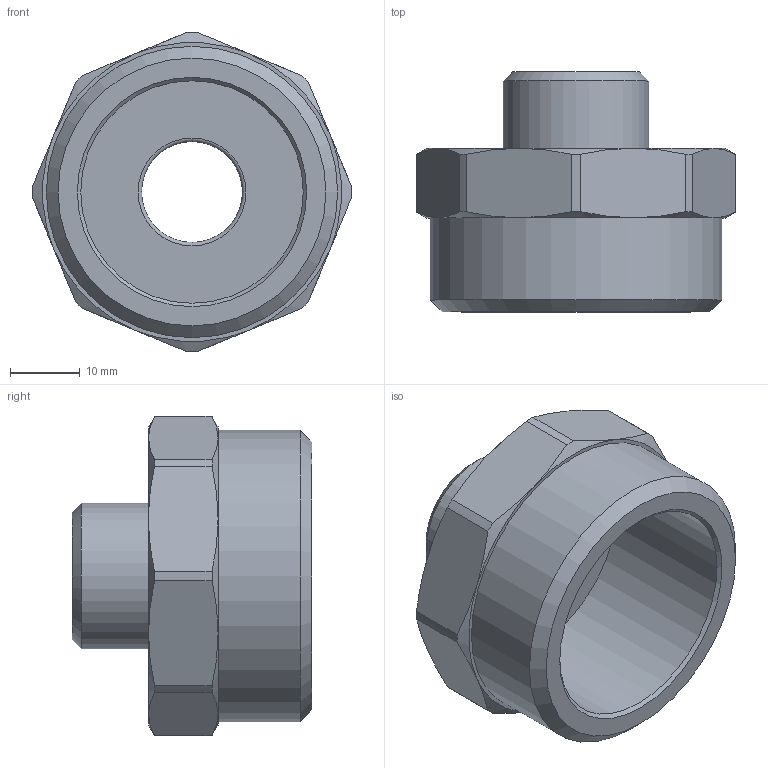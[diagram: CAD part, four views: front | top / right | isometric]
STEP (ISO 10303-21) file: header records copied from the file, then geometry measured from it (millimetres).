
FILE_DESCRIPTION(('STEP AP203'), '1');
FILE_NAME('ÂÐ.753157.004 - VTr.580.N.0704 Íèïïåëü G1 1-4xG1-2', '2024-07-03T10:16:09', ('Boss'), (''), 'C3D Converter', 'C3D Toolkit', '');
FILE_SCHEMA(('CONFIG_CONTROL_DESIGN'));
Length unit declared in the file: millimetre
Products named in the file (1): ВР.753157.004
Bounding box: 46 x 34.5 x 46 mm (x, y, z)
Volume: 18295.9 mm3; surface area: 9063.9 mm2
Topology: 1 solids, 1 shells, 45 faces, 100 edges, 60 vertices
Faces by surface type: cone 19, plane 13, cylinder 12, torus 1
Full cylindrical faces by diameter (mm): 14.5 x1, 20.955 x1, 32 x1, 41.91 x1
Entity records: 1684 total; most frequent: CARTESIAN_POINT 791, DIRECTION 180, ORIENTED_EDGE 166, EDGE_CURVE 83, AXIS2_PLACEMENT_3D 82, VERTEX_POINT 56, EDGE_LOOP 55, ADVANCED_FACE 41
